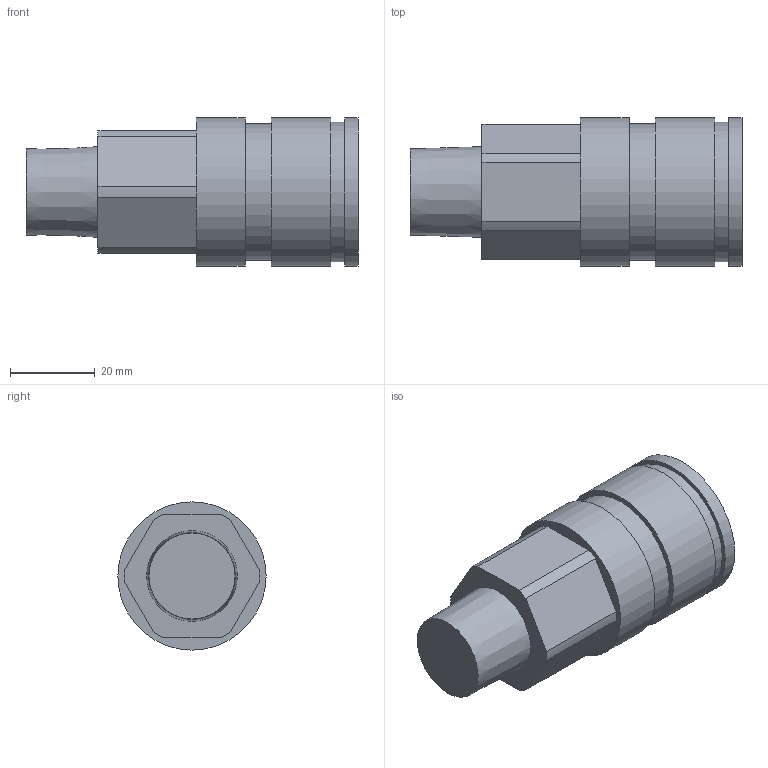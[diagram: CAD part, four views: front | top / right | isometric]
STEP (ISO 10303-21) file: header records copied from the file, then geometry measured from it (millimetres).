
FILE_DESCRIPTION((''),'2;1');
FILE_NAME('Z:\客先\あ行\アオイ\99_その他\3D_DATA\CPR_Series\4CPR-SSV-R\STEP\203\CPR-SSV-R1-2.ipt.stp','2008-07-01T16:12:46',(''),(''),'Autodesk Inventor 2009','Autodesk Inventor 2009','');
FILE_SCHEMA(('CONFIG_CONTROL_DESIGN'));
Length unit declared in the file: millimetre
Products named in the file (1): CPR-SSV-R1-2
Bounding box: 78.4 x 35 x 35 mm (x, y, z)
Volume: 46128.7 mm3; surface area: 11963.1 mm2
Topology: 1 solids, 1 shells, 28 faces, 57 edges, 38 vertices
Faces by surface type: plane 15, cylinder 12, cone 1
Full cylindrical faces by diameter (mm): 23.3 x1, 32.3 x1, 33 x1, 35 x3
Entity records: 729 total; most frequent: DIRECTION 134, CARTESIAN_POINT 117, ORIENTED_EDGE 100, AXIS2_PLACEMENT_3D 55, EDGE_CURVE 50, EDGE_LOOP 42, VERTEX_POINT 38, FACE_OUTER_BOUND 28
